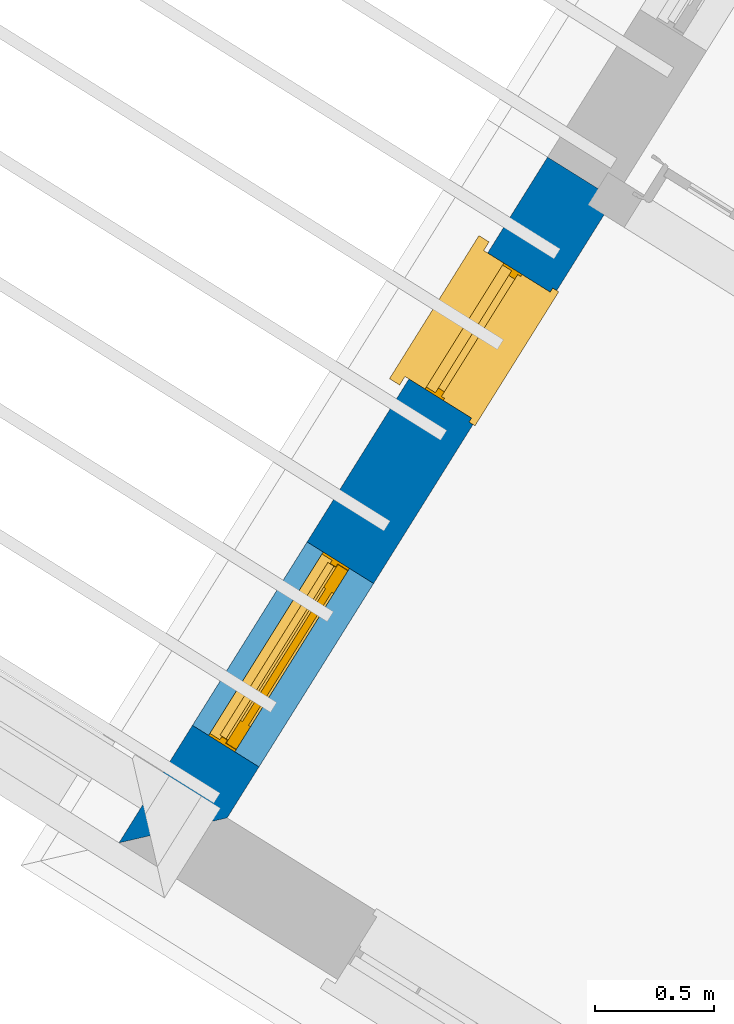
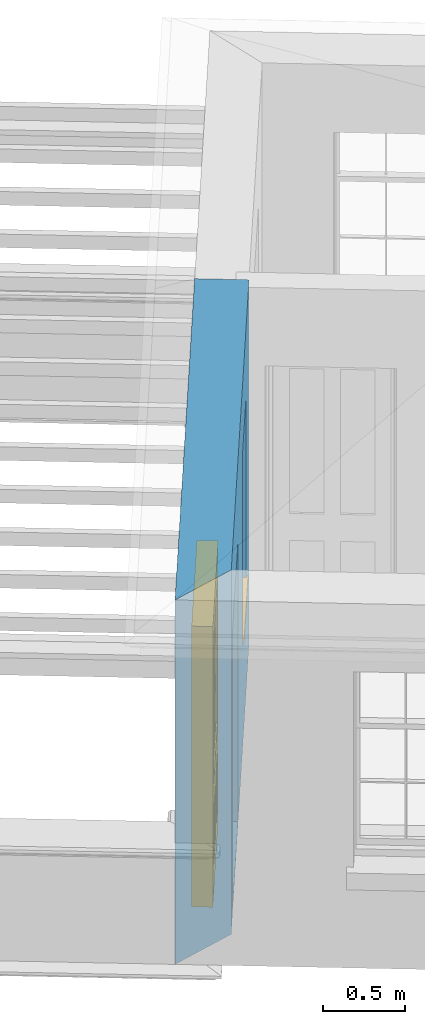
# One storey, part 3 of 6: 1 door, 1 wall, 1 window, 2 openings.
"""IFC4 building model written with IfcOpenShell, lengths in metres."""

from ifc_helpers import new_model, si_unit, frame, origin, origin_with_axes, place, context, subcontext, project, spatial, polyline, outline, extrude, faceted_brep, source, transform, mapped, material, layer, layer_set, layer_usage, type_object, type_shapes, element, fill, save


model = new_model("IFC4")

# Units and contexts
model_context = context("Model", 3, world=origin_with_axes())
body_context = subcontext(model_context, "Body", "Model", "MODEL_VIEW")
ifc_project = project(units=[si_unit("PLANEANGLEUNIT", "RADIAN"), si_unit("MASSUNIT", "GRAM", prefix="KILO"), si_unit("FORCEUNIT", "NEWTON", prefix="KILO"), si_unit("LENGTHUNIT", "METRE"), si_unit("AREAUNIT", "SQUARE_METRE"), si_unit("VOLUMEUNIT", "CUBIC_METRE")], contexts=[model_context, model_context])

# Sites, building, storey
site_1_placement = place(None, origin_with_axes())
site_1 = spatial("IfcSite", under=ifc_project, at=site_1_placement, Name="Tamar")
site_2_placement = place(site_1_placement, origin_with_axes())
site_2 = spatial("IfcSite", under=site_1, at=site_2_placement, Name="Site plot-4", CompositionType="ELEMENT")
building_placement = place(None, origin_with_axes())
building = spatial("IfcBuilding", under=site_2, at=building_placement, Name="Building plot-4", CompositionType="ELEMENT")
storey_placement = place(None, frame((0.0, 0.0, 31.4), z_axis=(0.0, 0.0, 1.0), x_axis=(1.0, 0.0, 0.0)))
storey = spatial("IfcBuildingStorey", under=building, at=storey_placement, Name="plot-4 2", CompositionType="ELEMENT", Elevation=31.4)

# Wall, openings, door, window
ifc_material = material(Name="Masonry")
ifc_layer = layer(ifc_material, 0.33, ventilated=False)
ifc_layer_set = layer_set([ifc_layer], Name="exterior_0.08_0.25")
ifc_layer_usage = layer_usage(ifc_layer_set, "AXIS2", "POSITIVE", -0.25)
wall_type = type_object("IfcWallType", Name="exterior_0.08_0.25", PredefinedType="SOLIDWALL", material=ifc_layer_set)
wall_placement = place(storey_placement, frame((223.639587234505, 281.566497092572, 0.0), z_axis=(0.0, 0.0, 1.0), x_axis=(-0.53002650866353, -0.847981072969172, 0.0)))
wall = element("IfcWall", 1, at=wall_placement, inside=storey, type_object=wall_type, material=ifc_layer_usage, Name="exterior", context=body_context, shape_type="SweptSolid", body=[
    extrude(outline(polyline([(3.59387666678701e-14, 0.0799999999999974), (-1.85391937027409e-13, -0.249999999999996), (3.40206750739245, -0.250000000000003), (3.07206750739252, 0.0799999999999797), (3.59387666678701e-14, 0.0799999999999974)])), origin_with_axes(), (0.0, 0.0, 1.0), 2.7),
])
opening_1_placement = place(wall_placement, frame((0.475516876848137, 0.0, 0.75)))
opening_1 = element("IfcOpeningElement", 2, at=opening_1_placement, cuts=wall, Name="My Opening", ObjectType="Opening", context=body_context, shape_type="SweptSolid", body=[
    extrude(outline(polyline([(0.0, -0.269999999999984), (0.624999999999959, -0.269999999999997), (0.62499999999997, 1.09999999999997), (1.0325074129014e-14, 1.09999999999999), (0.0, -0.269999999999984)])), origin_with_axes(), (0.0, 0.0, 1.0), 1.445),
])
opening_2_placement = place(wall_placement, frame((1.90905063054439, 0.0, 0.0199999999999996)))
opening_2 = element("IfcOpeningElement", 3, at=opening_2_placement, cuts=wall, Name="My Opening", ObjectType="Opening", context=body_context, shape_type="SweptSolid", body=[
    extrude(outline(polyline([(0.0, -0.269999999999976), (0.909999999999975, -0.270000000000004), (0.909999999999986, 1.09999999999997), (1.13242748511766e-14, 1.1), (0.0, -0.269999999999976)])), origin_with_axes(), (0.0, 0.0, 1.0), 2.08),
])
door_type = type_object("IfcDoorType", Name="door_panelled", OperationType="SINGLE_SWING_LEFT", PredefinedType="NOTDEFINED")
shared_shape_1 = source(origin(), body_context, "Body", "Brep", [
    faceted_brep([(0.545, 0.195, 0.265), (0.745, 0.195, 0.265), (0.745, 0.2, 0.265), (0.545, 0.2, 0.265), (0.745, 0.2, 0.58), (0.545, 0.2, 0.58), (0.545, 0.195, 0.58), (0.515, 0.19, 0.235), (0.775, 0.19, 0.235), (0.745, 0.195, 0.58), (0.515, 0.19, 0.61), (0.515, 0.185, 0.235), (0.775, 0.185, 0.235), (0.775, 0.19, 0.61), (0.515, 0.185, 0.61), (0.785, 0.185, 0.225), (0.505, 0.185, 0.225), (0.775, 0.185, 0.61), (0.505, 0.185, 0.62), (0.785, 0.185, 0.62), (0.505, 0.18, 0.225), (0.785, 0.18, 0.225), (0.505, 0.18, 0.62), (0.785, 0.18, 0.62), (0.883, 0.18, 0.075), (0.898, 0.18, 0.075), (0.405, 0.18, 0.62), (0.405, 0.18, 0.225), (0.027, 0.18, 0.075), (0.785, 0.18, 0.82), (0.125, 0.18, 0.82), (0.405, 0.185, 0.62), (0.405, 0.185, 0.225), (0.898, 0.18, 2.068), (0.027, 0.17, 0.075), (0.883, 0.17, 0.075), (0.125, 0.18, 0.225), (0.012, 0.18, 0.075), (0.785, 0.19, 0.82), (0.125, 0.19, 0.82), (0.125, 0.18, 0.62), (0.125, 0.185, 0.62), (0.395, 0.185, 0.61), (0.395, 0.185, 0.235), (0.125, 0.185, 0.225), (0.785, 0.18, 1.895), (0.027, 0.14, 0.045), (0.883, 0.14, 0.045), (0.558333, 0.19, 0.83), (0.351667, 0.19, 0.83), (0.125, 0.18, 1.895), (0.125, 0.19, 1.895), (0.785, 0.19, 1.895), (0.012, 0.18, 2.068), (0.135, 0.185, 0.61), (0.395, 0.19, 0.61), (0.395, 0.19, 0.235), (0.135, 0.185, 0.235), (0.027, 0.14, 0.027), (0.883, 0.14, 0.027), (0.568333, 0.19, 0.83), (0.558333, 0.22, 0.83), (0.351667, 0.22, 0.83), (0.341667, 0.19, 0.83), (0.135, 0.19, 1.185), (0.135, 0.19, 1.53), (0.775, 0.19, 1.53), (0.775, 0.19, 1.185), (0.135, 0.19, 0.61), (0.365, 0.195, 0.58), (0.365, 0.195, 0.265), (0.135, 0.19, 0.235), (0.568333, 0.19, 1.175), (0.558333, 0.19, 1.175), (0.775, 0.19, 0.83), (0.558333, 0.22, 1.175), (0.785, 0.22, 0.82), (0.125, 0.22, 0.82), (0.351667, 0.22, 1.175), (0.351667, 0.19, 1.175), (0.341667, 0.19, 1.175), (0.135, 0.19, 0.83), (0.135, 0.19, 1.175), (0.135, 0.22, 1.185), (0.135, 0.22, 1.53), (0.135, 0.19, 1.54), (0.351667, 0.19, 1.885), (0.558333, 0.19, 1.885), (0.775, 0.22, 1.53), (0.775, 0.22, 1.185), (0.775, 0.19, 1.175), (0.775, 0.19, 1.54), (0.165, 0.195, 0.58), (0.365, 0.2, 0.58), (0.365, 0.2, 0.265), (0.165, 0.195, 0.265), (0.568333, 0.22, 0.83), (0.568333, 0.22, 1.175), (0.568333, 0.19, 1.185), (0.558333, 0.19, 1.185), (0.775, 0.22, 0.83), (0.785, 0.23, 0.82), (0.125, 0.23, 0.82), (0.341667, 0.22, 0.83), (0.341667, 0.22, 1.175), (0.351667, 0.19, 1.185), (0.341667, 0.19, 1.185), (0.135, 0.22, 0.83), (0.341667, 0.22, 1.185), (0.125, 0.22, 1.895), (0.341667, 0.22, 1.53), (0.341667, 0.19, 1.53), (0.135, 0.19, 1.885), (0.341667, 0.19, 1.54), (0.341667, 0.19, 1.885), (0.558333, 0.22, 1.885), (0.351667, 0.22, 1.885), (0.568333, 0.19, 1.885), (0.785, 0.22, 1.895), (0.568333, 0.22, 1.185), (0.568333, 0.19, 1.53), (0.568333, 0.22, 1.53), (0.568333, 0.19, 1.54), (0.775, 0.19, 1.885), (0.165, 0.2, 0.58), (0.165, 0.2, 0.265), (0.775, 0.22, 1.175), (0.558333, 0.19, 1.53), (0.351667, 0.22, 1.185), (0.558333, 0.22, 1.185), (0.505, 0.23, 0.62), (0.405, 0.23, 0.62), (0.125, 0.23, 1.895), (0.785, 0.23, 1.895), (0.351667, 0.19, 1.53), (0.135, 0.22, 1.175), (0.135, 0.22, 1.54), (0.341667, 0.22, 1.54), (0.135, 0.22, 1.885), (0.351667, 0.19, 1.54), (0.558333, 0.22, 1.54), (0.558333, 0.19, 1.54), (0.351667, 0.22, 1.54), (0.775, 0.22, 1.54), (0.568333, 0.22, 1.54), (0.775, 0.22, 1.885), (0.558333, 0.22, 1.53), (0.405, 0.23, 0.225), (0.505, 0.23, 0.225), (0.125, 0.23, 0.62), (0.785, 0.23, 0.62), (0.012, 0.23, 2.068), (0.898, 0.23, 2.068), (0.351667, 0.22, 1.53), (0.341667, 0.22, 1.885), (0.568333, 0.22, 1.885), (0.405, 0.225, 0.225), (0.405, 0.225, 0.62), (0.505, 0.225, 0.62), (0.505, 0.225, 0.225), (0.898, 0.23, 0.027), (0.012, 0.23, 0.027), (0.125, 0.225, 0.62), (0.785, 0.225, 0.62), (0.395, 0.225, 0.235), (0.395, 0.225, 0.61), (0.125, 0.23, 0.225), (0.125, 0.225, 0.225), (0.515, 0.225, 0.61), (0.515, 0.225, 0.235), (0.785, 0.23, 0.225), (0.785, 0.225, 0.225), (0.135, 0.225, 0.61), (0.775, 0.225, 0.61), (0.135, 0.225, 0.235), (0.395, 0.22, 0.235), (0.395, 0.22, 0.61), (0.515, 0.22, 0.61), (0.515, 0.22, 0.235), (0.775, 0.225, 0.235), (0.135, 0.22, 0.61), (0.775, 0.22, 0.61), (0.135, 0.22, 0.235), (0.365, 0.215, 0.265), (0.365, 0.215, 0.58), (0.545, 0.215, 0.58), (0.545, 0.215, 0.265), (0.775, 0.22, 0.235), (0.165, 0.215, 0.58), (0.745, 0.215, 0.58), (0.165, 0.215, 0.265), (0.365, 0.21, 0.58), (0.365, 0.21, 0.265), (0.545, 0.21, 0.58), (0.545, 0.21, 0.265), (0.745, 0.215, 0.265), (0.165, 0.21, 0.58), (0.745, 0.21, 0.58), (0.165, 0.21, 0.265), (0.745, 0.21, 0.265), (0.885, 0.178, 0.025), (0.025, 0.178, 0.025), (0.025, 0.15, 0.025), (0.885, 0.15, 0.025), (0.9, 0.23, 0.025), (0.01, 0.23, 0.025), (0.9, 0.178, 0.025), (0.91, 0.23, 0.0), (0.0, 0.23, 0.0), (0.01, 0.178, 0.025), (0.9, 0.178, 2.07), (0.9, 0.23, 2.07), (0.885, 0.178, 2.055), (0.91, 0.23, 2.08), (0.01, 0.23, 2.07), (0.0, 0.23, 2.08), (0.01, 0.178, 2.07), (0.025, 0.178, 2.055), (0.0, 0.1, 2.08), (0.91, 0.1, 2.08), (0.01, 0.1, 2.07), (0.9, 0.1, 2.07), (0.01, 0.15, 2.07), (0.9, 0.15, 2.07), (0.0, 0.1, 0.0), (0.91, 0.1, 0.0), (0.01, 0.1, 0.025), (0.9, 0.1, 0.025), (0.01, 0.15, 0.025), (0.025, 0.15, 2.055), (0.9, 0.15, 0.025), (0.885, 0.15, 2.055), (0.898, 0.18, 0.027), (0.012, 0.18, 0.027), (0.883, 0.18, 0.027), (0.027, 0.18, 0.027)], [[[0, 1, 2, 3]], [[2, 4, 5, 3]], [[0, 3, 5, 6]], [[1, 0, 7, 8]], [[9, 4, 2, 1]], [[9, 6, 5, 4]], [[0, 6, 10, 7]], [[8, 7, 11, 12]], [[8, 13, 9, 1]], [[13, 10, 6, 9]], [[7, 10, 14, 11]], [[15, 12, 11, 16]], [[12, 17, 13, 8]], [[17, 14, 10, 13]], [[18, 16, 11, 14]], [[15, 19, 17, 12]], [[15, 16, 20, 21]], [[14, 17, 19, 18]], [[16, 18, 22, 20]], [[21, 23, 19, 15]], [[24, 25, 21, 20]], [[23, 22, 18, 19]], [[20, 22, 26, 27]], [[23, 21, 25]], [[28, 24, 20, 27]], [[22, 23, 29]], [[29, 30, 26, 22]], [[27, 26, 31, 32]], [[23, 25, 33, 29]], [[34, 35, 24, 28]], [[28, 27, 36, 37]], [[38, 39, 30, 29]], [[26, 30, 40]], [[26, 40, 41, 31]], [[42, 43, 32, 31]], [[32, 44, 36, 27]], [[33, 45, 29]], [[46, 47, 35, 34]], [[36, 40, 37]], [[39, 38, 48, 49]], [[50, 30, 39, 51]], [[29, 45, 52, 38]], [[53, 37, 40, 30]], [[44, 41, 40, 36]], [[31, 41, 54, 42]], [[43, 42, 55, 56]], [[57, 44, 32, 43]], [[50, 45, 33, 53]], [[47, 46, 58, 59]], [[60, 48, 38]], [[49, 48, 61, 62]], [[49, 63, 39]], [[50, 53, 30]], [[51, 39, 64, 65]], [[45, 50, 51, 52]], [[66, 67, 38, 52]], [[57, 54, 41, 44]], [[42, 54, 68, 55]], [[56, 55, 69, 70]], [[56, 71, 57, 43]], [[60, 72, 73, 48]], [[60, 38, 74]], [[48, 73, 75, 61]], [[76, 77, 62, 61]], [[62, 78, 79, 49]], [[49, 79, 80, 63]], [[63, 81, 39]], [[82, 64, 39]], [[65, 64, 83, 84]], [[85, 51, 65]], [[52, 51, 86, 87]], [[88, 89, 67, 66]], [[90, 38, 67]], [[91, 66, 52]], [[71, 68, 54, 57]], [[55, 68, 92, 69]], [[69, 93, 94, 70]], [[70, 95, 71, 56]], [[96, 97, 72, 60]], [[73, 72, 98, 99]], [[74, 38, 90]], [[100, 96, 60, 74]], [[75, 73, 79, 78]], [[61, 75, 97, 96]], [[101, 102, 77, 76]], [[77, 103, 62]], [[96, 76, 61]], [[103, 104, 78, 62]], [[80, 79, 105, 106]], [[63, 80, 104, 103]], [[81, 63, 103, 107]], [[81, 82, 39]], [[106, 64, 82, 80]], [[106, 108, 83, 64]], [[84, 83, 77, 109]], [[110, 111, 65, 84]], [[112, 51, 85]], [[113, 85, 65, 111]], [[114, 86, 51]], [[115, 87, 86, 116]], [[117, 52, 87]], [[118, 76, 89, 88]], [[119, 98, 67, 89]], [[120, 121, 88, 66]], [[67, 98, 72, 90]], [[91, 122, 120, 66]], [[91, 52, 123]], [[95, 92, 68, 71]], [[69, 92, 124, 93]], [[94, 93, 124, 125]], [[94, 125, 95, 70]], [[72, 97, 126, 90]], [[127, 99, 98, 120]], [[99, 105, 79, 73]], [[74, 90, 126, 100]], [[96, 100, 76]], [[128, 129, 75, 78]], [[97, 75, 129, 119]], [[130, 131, 102, 101]], [[109, 77, 102, 132]], [[133, 101, 76, 118]], [[77, 107, 103]], [[78, 104, 108, 128]], [[111, 106, 105, 134]], [[104, 80, 82, 135]], [[107, 135, 82, 81]], [[110, 108, 106, 111]], [[104, 135, 83, 108]], [[83, 135, 77]], [[136, 84, 109]], [[110, 84, 136, 137]], [[114, 51, 112]], [[85, 136, 138, 112]], [[113, 137, 136, 85]], [[111, 134, 139, 113]], [[86, 114, 113, 139]], [[140, 141, 87, 115]], [[139, 142, 116, 86]], [[109, 118, 115, 116]], [[117, 123, 52]], [[117, 87, 141, 122]], [[126, 89, 76]], [[143, 118, 88]], [[120, 98, 119, 121]], [[119, 89, 126, 97]], [[144, 143, 88, 121]], [[144, 122, 91, 143]], [[127, 120, 122, 141]], [[143, 91, 123, 145]], [[124, 92, 95, 125]], [[146, 129, 99, 127]], [[99, 129, 128, 105]], [[100, 126, 76]], [[121, 119, 129, 146]], [[147, 131, 130, 148]], [[131, 149, 102]], [[130, 101, 150]], [[102, 151, 132]], [[118, 109, 132, 133]], [[101, 133, 152]], [[107, 77, 135]], [[153, 128, 108, 110]], [[134, 105, 128, 153]], [[109, 138, 136]], [[153, 110, 137, 142]], [[154, 114, 112, 138]], [[137, 113, 114, 154]], [[141, 139, 134, 127]], [[141, 140, 142, 139]], [[144, 140, 115, 155]], [[142, 137, 154, 116]], [[155, 115, 118]], [[116, 154, 109]], [[117, 155, 145, 123]], [[122, 144, 155, 117]], [[143, 145, 118]], [[121, 146, 140, 144]], [[146, 127, 134, 153]], [[156, 157, 131, 147]], [[148, 130, 158, 159]], [[148, 160, 161, 147]], [[157, 162, 149, 131]], [[161, 151, 102, 149]], [[101, 152, 160, 150]], [[163, 158, 130, 150]], [[151, 152, 133, 132]], [[154, 138, 109]], [[142, 140, 146, 153]], [[145, 155, 118]], [[157, 156, 164, 165]], [[147, 166, 167, 156]], [[168, 169, 159, 158]], [[170, 148, 159, 171]], [[148, 170, 160]], [[166, 147, 161]], [[172, 162, 157, 165]], [[166, 149, 162, 167]], [[166, 161, 149]], [[150, 160, 170]], [[163, 173, 168, 158]], [[171, 163, 150, 170]], [[174, 164, 156, 167]], [[175, 176, 165, 164]], [[169, 168, 177, 178]], [[171, 159, 169, 179]], [[167, 162, 172, 174]], [[176, 180, 172, 165]], [[179, 173, 163, 171]], [[181, 177, 168, 173]], [[164, 174, 182, 175]], [[183, 184, 176, 175]], [[178, 177, 185, 186]], [[179, 169, 178, 187]], [[174, 172, 180, 182]], [[184, 188, 180, 176]], [[187, 181, 173, 179]], [[189, 185, 177, 181]], [[175, 182, 190, 183]], [[191, 184, 183, 192]], [[185, 193, 194, 186]], [[187, 178, 186, 195]], [[182, 180, 188, 190]], [[191, 196, 188, 184]], [[195, 189, 181, 187]], [[197, 193, 185, 189]], [[183, 190, 198, 192]], [[198, 196, 191, 192]], [[194, 193, 197, 199]], [[195, 186, 194, 199]], [[188, 196, 198, 190]], [[197, 189, 195, 199]], [[200, 201, 202, 203]], [[201, 200, 204, 205]], [[206, 204, 200]], [[204, 207, 208, 205]], [[209, 201, 205]], [[210, 211, 204, 206]], [[206, 200, 212, 210]], [[211, 213, 207, 204]], [[214, 205, 208, 215]], [[216, 217, 201, 209]], [[205, 214, 216, 209]], [[216, 214, 211, 210]], [[210, 212, 217, 216]], [[214, 215, 213, 211]], [[218, 219, 213, 215]], [[219, 218, 220, 221]], [[221, 220, 222, 223]], [[215, 208, 224, 218]], [[225, 224, 208, 207]], [[224, 226, 220, 218]], [[224, 225, 227, 226]], [[219, 225, 207, 213]], [[228, 222, 220, 226]], [[219, 221, 227, 225]], [[226, 227, 203, 202]], [[202, 229, 222, 228]], [[228, 226, 202]], [[227, 221, 223, 230]], [[230, 203, 227]], [[217, 229, 202, 201]], [[231, 223, 222, 229]], [[230, 223, 231, 203]], [[231, 229, 217, 212]], [[212, 200, 203, 231]], [[33, 152, 151, 53]], [[25, 160, 152, 33]], [[161, 37, 53, 151]], [[232, 160, 25]], [[161, 233, 37]], [[160, 232, 234]], [[24, 234, 232, 25]], [[233, 161, 235]], [[37, 233, 235, 28]], [[161, 160, 234, 235]], [[35, 47, 234, 24]], [[28, 235, 46, 34]], [[58, 235, 234, 59]], [[59, 234, 47]], [[58, 46, 235]]]),
])
type_shapes(door_type, [shared_shape_1])
door_placement = place(storey_placement, frame((222.398784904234, 280.09076544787, 0.0199999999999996), z_axis=(0.0, 0.0, 1.0), x_axis=(-0.482324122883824, -0.771662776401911, 0.0)))
door = element("IfcDoor", 4, at=door_placement, inside=storey, type_object=door_type, Name="bedroom outside door", OverallHeight=2.08, OverallWidth=0.91, context=body_context, shape_type="MappedRepresentation", body=[
    mapped(shared_shape_1, transform((0.0, 0.0, 0.0), scale=1.0)),
])
fill(opening_2, door)
window_type = type_object("IfcWindowType", Name="sash_narrow_shorter", PartitioningType="DOUBLE_PANEL_HORIZONTAL", PredefinedType="NOTDEFINED")
shared_shape_2 = source(origin(), body_context, "Body", "Brep", [
    faceted_brep([(0.591875, 0.145, 0.999097), (0.591875, 0.145, 1.411875), (0.615, 0.145, 1.435), (0.033125, 0.145, 1.411875), (0.033125, 0.145, 0.999097), (0.01, 0.145, 1.435), (0.033125, 0.115, 1.411875), (0.01, 0.115, 1.435), (0.033125, 0.115, 0.999097), (0.591875, 0.115, 1.411875), (0.591875, 0.115, 0.999097), (0.615, 0.115, 1.435), (0.033125, 0.145, 0.960972), (0.01, 0.145, 0.960972), (0.033125, 0.145, 0.548195), (0.591875, 0.145, 0.960972), (0.591875, 0.145, 0.548195), (0.615, 0.145, 0.960972), (0.591875, 0.145, 0.538195), (0.591875, 0.145, 0.125417), (0.615, 0.145, 0.077167), (0.033125, 0.145, 0.125417), (0.033125, 0.145, 0.538195), (0.01, 0.145, 0.077167), (0.615, 0.115, 0.960972), (0.01, 0.115, 0.960972), (-0.0425, 0.0, 0.01), (-0.0425, -0.05, 0.001667), (0.0, 0.0, 0.01), (0.6675, 0.0, 0.01), (0.625, 0.0, 0.01), (0.6675, -0.05, 0.001667), (-0.02, 0.33, 0.077167), (0.0, 0.33, 0.077167), (-0.02, 0.36, 0.077167), (0.0, 0.19, 0.077167), (0.01, 0.19, 0.077167), (0.625, 0.19, 0.077167), (0.625, 0.33, 0.077167), (0.615, 0.19, 0.077167), (0.645, 0.33, 0.077167), (0.645, 0.36, 0.077167), (0.01, 0.145, 0.999097), (0.01, 0.175, 0.999097), (0.615, 0.145, 0.999097), (0.615, 0.175, 0.999097), (0.591875, 0.175, 0.125417), (0.591875, 0.175, 0.538195), (0.615, 0.175, 0.077167), (0.591875, 0.175, 0.548195), (0.591875, 0.175, 0.960972), (0.033125, 0.175, 0.125417), (0.01, 0.175, 0.077167), (0.033125, 0.175, 0.538195), (0.033125, 0.175, 0.960972), (0.033125, 0.175, 0.548195), (-0.02, 0.33, 0.052167), (-0.02, 0.36, 0.052167), (0.645, 0.36, 0.052167), (0.645, 0.33, 0.052167), (0.625, 0.33, 0.052167), (0.0, 0.33, 0.052167), (0.625, 0.1, 0.026667), (0.0, 0.1, 0.026667), (-0.0425, -0.05, -0.123333), (0.6675, -0.05, -0.123333), (-0.0425, 0.0, -0.123333), (0.6675, 0.0, -0.123333), (0.01, 0.19, 1.435), (0.615, 0.19, 1.435), (0.0, 0.19, 1.445), (0.625, 0.19, 1.445), (0.01, 0.1, 0.077167), (0.615, 0.1, 0.077167), (0.3175, 0.175, 0.548195), (0.3175, 0.145, 0.548195), (0.3175, 0.175, 0.538195), (0.3175, 0.175, 0.125417), (0.3075, 0.175, 0.125417), (0.3075, 0.175, 0.538195), (0.3075, 0.175, 0.548195), (0.3175, 0.175, 0.960972), (0.3075, 0.175, 0.960972), (0.3075, 0.145, 0.538195), (0.3075, 0.145, 0.125417), (0.3175, 0.145, 0.125417), (0.3175, 0.145, 0.538195), (0.3075, 0.145, 0.548195), (0.3075, 0.145, 0.960972), (0.3175, 0.145, 0.960972), (0.3175, 0.115, 1.411875), (0.3075, 0.115, 1.411875), (0.3075, 0.115, 0.999097), (0.3175, 0.115, 0.999097), (0.3175, 0.145, 0.999097), (0.3075, 0.145, 0.999097), (0.3075, 0.145, 1.411875), (0.3175, 0.145, 1.411875), (0.625, 0.1, 1.445), (0.615, 0.1, 1.435), (0.01, 0.1, 1.435), (0.0, 0.1, 1.445), (0.625, 0.0, 0.0), (0.0, 0.0, 0.0), (0.625, 0.33, 0.0), (0.0, 0.33, 0.0)], [[[0, 1, 2]], [[3, 4, 5]], [[6, 7, 8]], [[9, 10, 11]], [[12, 13, 14]], [[15, 16, 17]], [[18, 19, 20]], [[21, 22, 23]], [[24, 15, 17]], [[13, 12, 25]], [[26, 27, 28]], [[29, 30, 31]], [[32, 33, 34]], [[35, 36, 33]], [[37, 38, 39]], [[40, 41, 38]], [[42, 4, 43]], [[44, 45, 0]], [[46, 47, 48]], [[49, 50, 45]], [[51, 52, 53]], [[54, 55, 43]], [[38, 33, 36, 39]], [[41, 34, 33, 38]], [[56, 32, 34, 57]], [[57, 34, 41, 58]], [[58, 41, 40, 59]], [[57, 58, 60, 61]], [[52, 48, 39, 36]], [[62, 63, 28, 30]], [[27, 31, 30, 28]], [[27, 64, 65, 31]], [[66, 67, 65, 64]], [[2, 5, 68, 69]], [[68, 70, 71, 69]], [[20, 23, 72, 73]], [[73, 72, 63, 62]], [[16, 49, 74, 75]], [[76, 77, 78, 79]], [[80, 79, 53, 55]], [[81, 74, 80, 82]], [[76, 74, 49, 47]], [[83, 79, 78, 84]], [[22, 53, 79, 83]], [[85, 77, 76, 86]], [[87, 80, 55, 14]], [[88, 82, 80, 87]], [[75, 74, 81, 89]], [[86, 76, 47, 18]], [[86, 18, 16, 75]], [[86, 83, 84, 85]], [[87, 14, 22, 83]], [[89, 88, 87, 75]], [[90, 91, 92, 93]], [[94, 95, 96, 97]], [[91, 96, 95, 92]], [[93, 94, 97, 90]], [[74, 76, 79, 80]], [[75, 87, 83, 86]], [[84, 78, 51, 21]], [[6, 3, 96, 91]], [[90, 97, 1, 9]], [[19, 46, 77, 85]], [[26, 66, 64, 27]], [[29, 31, 65, 67]], [[25, 24, 93, 92]], [[11, 7, 91, 90]], [[77, 48, 52, 78]], [[43, 45, 81, 82]], [[45, 43, 95, 94]], [[5, 2, 97, 96]], [[24, 25, 88, 89]], [[42, 5, 4]], [[2, 44, 0]], [[49, 45, 48, 47]], [[52, 43, 55, 53]], [[14, 13, 23, 22]], [[20, 17, 16, 18]], [[24, 11, 10]], [[25, 8, 7]], [[8, 4, 3, 6]], [[9, 1, 0, 10]], [[15, 50, 49, 16]], [[18, 47, 46, 19]], [[21, 51, 53, 22]], [[14, 55, 54, 12]], [[44, 2, 69, 45]], [[68, 5, 42, 43]], [[36, 35, 70, 68]], [[39, 69, 71, 37]], [[62, 98, 99, 73]], [[63, 72, 100, 101]], [[8, 92, 95, 4]], [[93, 10, 0, 94]], [[82, 88, 12, 54]], [[17, 20, 73, 24]], [[72, 23, 13, 25]], [[52, 36, 68, 43]], [[69, 39, 48, 45]], [[11, 24, 73, 99]], [[7, 100, 72, 25]], [[84, 21, 23]], [[20, 19, 85]], [[20, 85, 84, 23]], [[24, 10, 93]], [[92, 8, 25]], [[90, 9, 11]], [[7, 6, 91]], [[96, 3, 5]], [[2, 1, 97]], [[11, 99, 100, 7]], [[98, 101, 100, 99]], [[82, 54, 43]], [[50, 81, 45]], [[15, 89, 81, 50]], [[77, 46, 48]], [[52, 51, 78]], [[89, 15, 24]], [[25, 12, 88]], [[43, 4, 95]], [[94, 0, 45]], [[71, 70, 101, 98]], [[70, 35, 63, 101]], [[98, 62, 37, 71]], [[102, 67, 66, 103]], [[60, 58, 59]], [[38, 60, 59, 40]], [[61, 56, 57]], [[32, 56, 61, 33]], [[61, 60, 104, 105]], [[62, 60, 38, 37]], [[102, 104, 60, 62]], [[33, 61, 63, 35]], [[61, 105, 103, 63]], [[104, 102, 103, 105]], [[28, 103, 66, 26]], [[63, 103, 28]], [[29, 67, 102, 30]], [[30, 102, 62]]]),
])
type_shapes(window_type, [shared_shape_2])
window_placement = place(storey_placement, frame((223.158595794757, 281.306374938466, 0.75), z_axis=(0.0, 0.0, 1.0), x_axis=(-0.331266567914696, -0.529988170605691, 0.0)))
window = element("IfcWindow", 5, at=window_placement, inside=storey, type_object=window_type, Name="bedroom outside window", OverallHeight=1.445, OverallWidth=0.625, context=body_context, shape_type="MappedRepresentation", body=[
    mapped(shared_shape_2, transform((0.0, 0.0, 0.0), scale=1.0)),
])
fill(opening_1, window)

save(model, "model.ifc")
